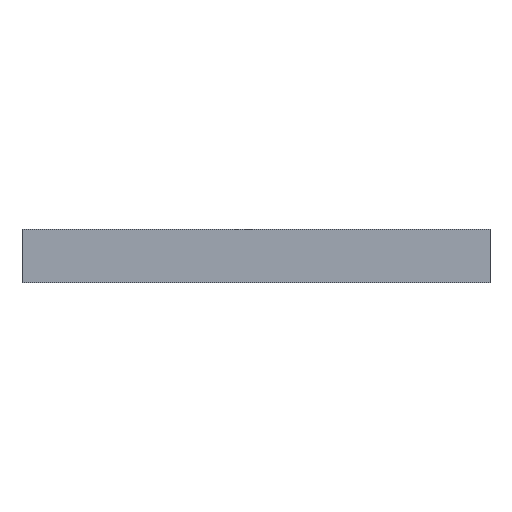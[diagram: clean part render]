
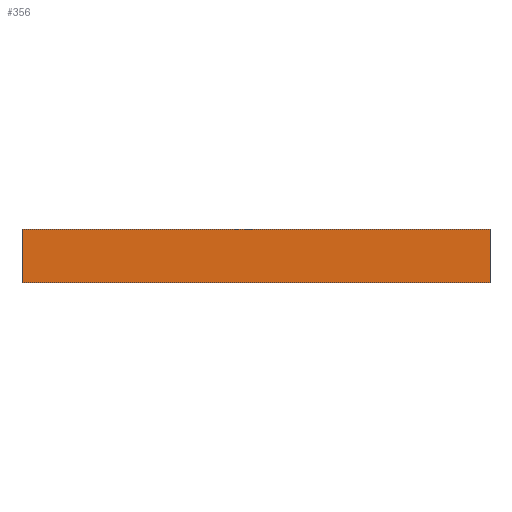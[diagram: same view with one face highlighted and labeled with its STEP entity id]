
A CAD part, top view. The second image highlights one B-rep face of the part: STEP entity #356.
In plain terms, the highlighted planar face has unit normal (0, 0, 1).
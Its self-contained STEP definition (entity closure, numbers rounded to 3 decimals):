
#42 = VERTEX_POINT('',#43);
#43 = CARTESIAN_POINT('',(0.,0.,0.6));
#50 = PLANE('',#51);
#51 = AXIS2_PLACEMENT_3D('',#52,#53,#54);
#52 = CARTESIAN_POINT('',(0.,0.,0.));
#53 = DIRECTION('',(1.,0.,-0.));
#54 = DIRECTION('',(0.,0.,1.));
#62 = PLANE('',#63);
#63 = AXIS2_PLACEMENT_3D('',#64,#65,#66);
#64 = CARTESIAN_POINT('',(0.,0.,0.));
#65 = DIRECTION('',(-0.,1.,0.));
#66 = DIRECTION('',(0.,0.,1.));
#103 = VERTEX_POINT('',#104);
#104 = CARTESIAN_POINT('',(0.,14.3,0.6));
#118 = PLANE('',#119);
#119 = AXIS2_PLACEMENT_3D('',#120,#121,#122);
#120 = CARTESIAN_POINT('',(0.,14.3,0.));
#121 = DIRECTION('',(-0.,1.,0.));
#122 = DIRECTION('',(0.,0.,1.));
#130 = EDGE_CURVE('',#42,#103,#131,.T.);
#131 = SURFACE_CURVE('',#132,(#136,#143),.PCURVE_S1.);
#132 = LINE('',#133,#134);
#133 = CARTESIAN_POINT('',(0.,0.,0.6));
#134 = VECTOR('',#135,1.);
#135 = DIRECTION('',(-0.,1.,0.));
#136 = PCURVE('',#50,#137);
#137 = DEFINITIONAL_REPRESENTATION('',(#138),#142);
#138 = LINE('',#139,#140);
#139 = CARTESIAN_POINT('',(0.6,0.));
#140 = VECTOR('',#141,1.);
#141 = DIRECTION('',(0.,-1.));
#142 = ( GEOMETRIC_REPRESENTATION_CONTEXT(2) 
PARAMETRIC_REPRESENTATION_CONTEXT() REPRESENTATION_CONTEXT('2D SPACE',''
  ) );
#143 = PCURVE('',#144,#149);
#144 = PLANE('',#145);
#145 = AXIS2_PLACEMENT_3D('',#146,#147,#148);
#146 = CARTESIAN_POINT('',(0.,0.,0.6));
#147 = DIRECTION('',(0.,0.,1.));
#148 = DIRECTION('',(1.,0.,-0.));
#149 = DEFINITIONAL_REPRESENTATION('',(#150),#154);
#150 = LINE('',#151,#152);
#151 = CARTESIAN_POINT('',(0.,0.));
#152 = VECTOR('',#153,1.);
#153 = DIRECTION('',(0.,1.));
#154 = ( GEOMETRIC_REPRESENTATION_CONTEXT(2) 
PARAMETRIC_REPRESENTATION_CONTEXT() REPRESENTATION_CONTEXT('2D SPACE',''
  ) );
#162 = VERTEX_POINT('',#163);
#163 = CARTESIAN_POINT('',(125.85,0.,0.6));
#170 = PLANE('',#171);
#171 = AXIS2_PLACEMENT_3D('',#172,#173,#174);
#172 = CARTESIAN_POINT('',(125.85,0.,0.));
#173 = DIRECTION('',(1.,0.,-0.));
#174 = DIRECTION('',(0.,0.,1.));
#213 = VERTEX_POINT('',#214);
#214 = CARTESIAN_POINT('',(125.85,14.3,0.6));
#235 = EDGE_CURVE('',#162,#213,#236,.T.);
#236 = SURFACE_CURVE('',#237,(#241,#248),.PCURVE_S1.);
#237 = LINE('',#238,#239);
#238 = CARTESIAN_POINT('',(125.85,0.,0.6));
#239 = VECTOR('',#240,1.);
#240 = DIRECTION('',(-0.,1.,0.));
#241 = PCURVE('',#170,#242);
#242 = DEFINITIONAL_REPRESENTATION('',(#243),#247);
#243 = LINE('',#244,#245);
#244 = CARTESIAN_POINT('',(0.6,0.));
#245 = VECTOR('',#246,1.);
#246 = DIRECTION('',(0.,-1.));
#247 = ( GEOMETRIC_REPRESENTATION_CONTEXT(2) 
PARAMETRIC_REPRESENTATION_CONTEXT() REPRESENTATION_CONTEXT('2D SPACE',''
  ) );
#248 = PCURVE('',#144,#249);
#249 = DEFINITIONAL_REPRESENTATION('',(#250),#254);
#250 = LINE('',#251,#252);
#251 = CARTESIAN_POINT('',(125.85,0.));
#252 = VECTOR('',#253,1.);
#253 = DIRECTION('',(0.,1.));
#254 = ( GEOMETRIC_REPRESENTATION_CONTEXT(2) 
PARAMETRIC_REPRESENTATION_CONTEXT() REPRESENTATION_CONTEXT('2D SPACE',''
  ) );
#281 = EDGE_CURVE('',#42,#162,#282,.T.);
#282 = SURFACE_CURVE('',#283,(#287,#294),.PCURVE_S1.);
#283 = LINE('',#284,#285);
#284 = CARTESIAN_POINT('',(0.,0.,0.6));
#285 = VECTOR('',#286,1.);
#286 = DIRECTION('',(1.,0.,-0.));
#287 = PCURVE('',#62,#288);
#288 = DEFINITIONAL_REPRESENTATION('',(#289),#293);
#289 = LINE('',#290,#291);
#290 = CARTESIAN_POINT('',(0.6,0.));
#291 = VECTOR('',#292,1.);
#292 = DIRECTION('',(0.,1.));
#293 = ( GEOMETRIC_REPRESENTATION_CONTEXT(2) 
PARAMETRIC_REPRESENTATION_CONTEXT() REPRESENTATION_CONTEXT('2D SPACE',''
  ) );
#294 = PCURVE('',#144,#295);
#295 = DEFINITIONAL_REPRESENTATION('',(#296),#300);
#296 = LINE('',#297,#298);
#297 = CARTESIAN_POINT('',(0.,0.));
#298 = VECTOR('',#299,1.);
#299 = DIRECTION('',(1.,0.));
#300 = ( GEOMETRIC_REPRESENTATION_CONTEXT(2) 
PARAMETRIC_REPRESENTATION_CONTEXT() REPRESENTATION_CONTEXT('2D SPACE',''
  ) );
#328 = EDGE_CURVE('',#103,#213,#329,.T.);
#329 = SURFACE_CURVE('',#330,(#334,#341),.PCURVE_S1.);
#330 = LINE('',#331,#332);
#331 = CARTESIAN_POINT('',(0.,14.3,0.6));
#332 = VECTOR('',#333,1.);
#333 = DIRECTION('',(1.,0.,-0.));
#334 = PCURVE('',#118,#335);
#335 = DEFINITIONAL_REPRESENTATION('',(#336),#340);
#336 = LINE('',#337,#338);
#337 = CARTESIAN_POINT('',(0.6,0.));
#338 = VECTOR('',#339,1.);
#339 = DIRECTION('',(0.,1.));
#340 = ( GEOMETRIC_REPRESENTATION_CONTEXT(2) 
PARAMETRIC_REPRESENTATION_CONTEXT() REPRESENTATION_CONTEXT('2D SPACE',''
  ) );
#341 = PCURVE('',#144,#342);
#342 = DEFINITIONAL_REPRESENTATION('',(#343),#347);
#343 = LINE('',#344,#345);
#344 = CARTESIAN_POINT('',(0.,14.3));
#345 = VECTOR('',#346,1.);
#346 = DIRECTION('',(1.,0.));
#347 = ( GEOMETRIC_REPRESENTATION_CONTEXT(2) 
PARAMETRIC_REPRESENTATION_CONTEXT() REPRESENTATION_CONTEXT('2D SPACE',''
  ) );
#356 = ADVANCED_FACE('',(#357),#144,.T.);
#357 = FACE_BOUND('',#358,.T.);
#358 = EDGE_LOOP('',(#359,#360,#361,#362));
#359 = ORIENTED_EDGE('',*,*,#130,.F.);
#360 = ORIENTED_EDGE('',*,*,#281,.T.);
#361 = ORIENTED_EDGE('',*,*,#235,.T.);
#362 = ORIENTED_EDGE('',*,*,#328,.F.);
